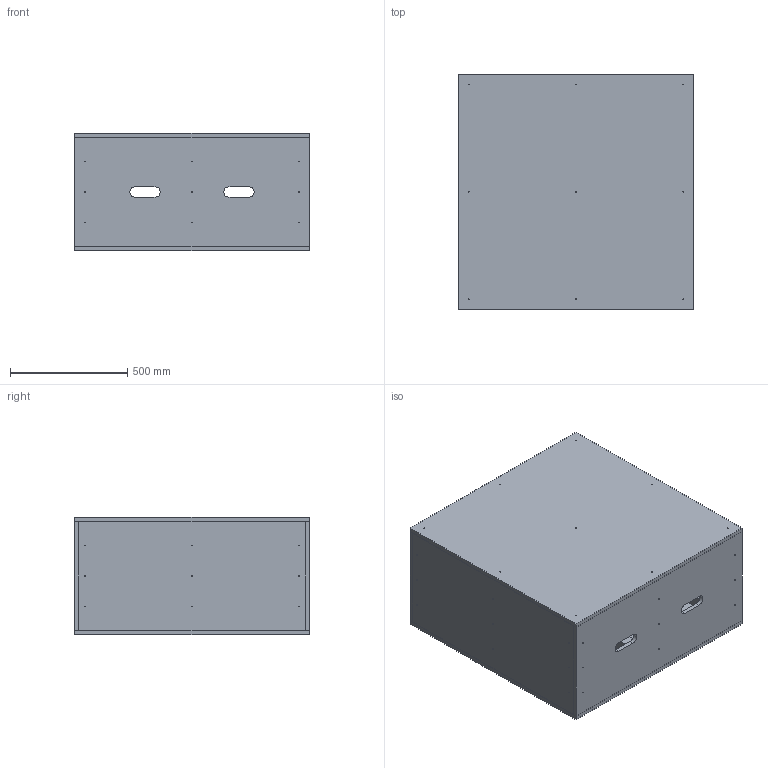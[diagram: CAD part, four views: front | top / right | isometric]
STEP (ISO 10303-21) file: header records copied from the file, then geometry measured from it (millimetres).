
FILE_DESCRIPTION(('Open CASCADE Model'),'2;1');
FILE_NAME('Open CASCADE Shape Model','2026-09-28T10:14:09',('Author'),( 'Open CASCADE'),'Open CASCADE STEP processor 7.9','Open CASCADE 7.9' ,'Unknown');
FILE_SCHEMA(('AUTOMOTIVE_DESIGN { 1 0 10303 214 1 1 1 1 }'));
Length unit declared in the file: millimetre
Products named in the file (28): box_500x1000x1000; bottom; top; front; back; end_left; end_right; post_0_0; post_0_1; post_0_2; post_1_0; post_1_1; post_1_2; post_2_0; post_2_1; post_2_2; cross_0_0; cross_0_1; cross_0_2; longitudinal_0_0; longitudinal_0_1; longitudinal_0_2; cross_1_0; cross_1_1; cross_1_2; longitudinal_1_0; longitudinal_1_1; longitudinal_1_2
Assembly tree (27 placements, depth 2):
  box_500x1000x1000
    bottom
    top
    front
    back
    end_left
    end_right
    post_0_0
    post_0_1
    post_0_2
    post_1_0
    post_1_1
    post_1_2
    post_2_0
    post_2_1
    post_2_2
    cross_0_0
    cross_0_1
    cross_0_2
    longitudinal_0_0
    longitudinal_0_1
    longitudinal_0_2
    cross_1_0
    cross_1_1
    cross_1_2
    longitudinal_1_0
    longitudinal_1_1
    longitudinal_1_2
Bounding box: 1000 x 1000 x 500 mm (x, y, z)
Volume: 105521973.7 mm3; surface area: 11057407.2 mm2
Topology: 27 solids, 27 shells, 232 faces, 534 edges, 356 vertices
Faces by surface type: plane 170, cylinder 62
Full cylindrical faces by diameter (mm): 2.5 x54
Entity records: 14346 total; most frequent: CARTESIAN_POINT 2250, DIRECTION 2214, LINE 1322, VECTOR 1322, ORIENTED_EDGE 1068, PCURVE 1068, DEFINITIONAL_REPRESENTATION 1068, EDGE_CURVE 534
